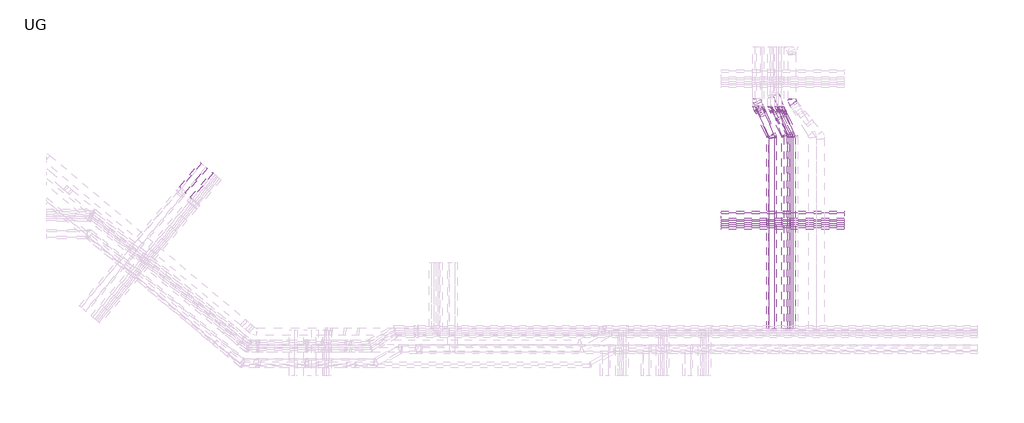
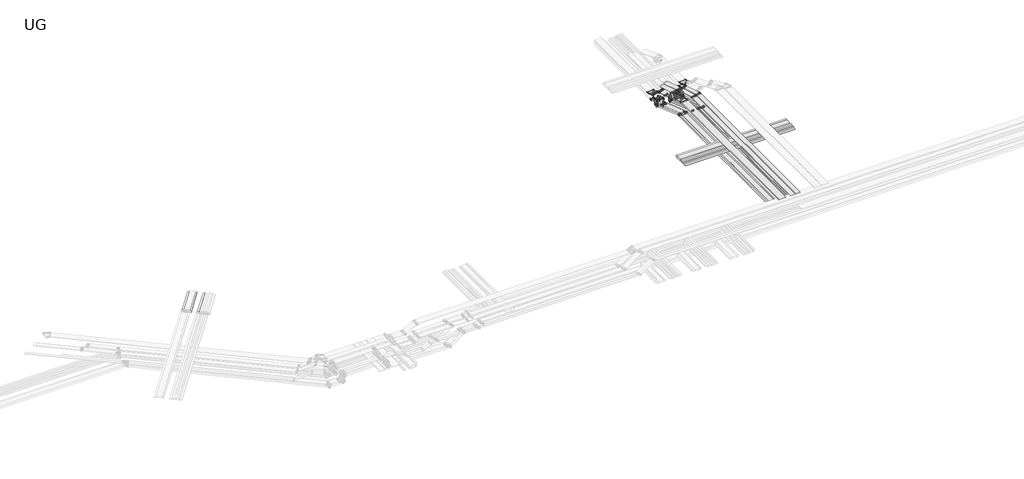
# One storey, part 10 of 14: 58 cable carrier segments, 47 cable carrier fittings.
"""IFC4 building model written with IfcOpenShell, lengths in millimetres."""

from ifc_helpers import new_model, si_unit, frame, origin, place, context, project, spatial, polyline, outline, extrude, transform, mapped, element, save
from components import cable_tray_horizontal_bend_01508106, cable_tray_horizontal_bend_a4984b26, cable_tray_horizontal_bend_2e1057a2, cable_tray_horizontal_bend_1fa5dd4e, cable_tray_horizontal_bend_ba0b7d37, cable_tray_horizontal_bend_ade5ac02, cable_tray_horizontal_bend_5f4273b5, cable_tray_horizontal_bend_cfc82d94, cable_tray_horizontal_bend_871adc4e, cable_tray_horizontal_bend_5669cde8, cable_tray_horizontal_bend_86dabf7d, cable_tray_horizontal_bend_4702312a, cable_tray_horizontal_bend_7e36f1fa, cable_tray_horizontal_bend_95bc2381, cable_tray_vertical_inside_bend_f6baaffd, cable_tray_vertical_inside_bend_1594799f, cable_tray_vertical_outside_bend_b526f006, cable_tray_vertical_outside_bend_0dbe7b70, cable_tray_vertical_outside_bend_a3d3d836, cable_tray_vertical_outside_bend_59e16c32, cable_tray_vertical_outside_bend_12a83c8c, cable_tray_vertical_outside_bend_da7dccf6

model = new_model("IFC4")

# Units and contexts
model_context = context("Model", 3, world=origin())
ifc_project = project(units=[si_unit("LENGTHUNIT", "METRE", prefix="MILLI")], contexts=[model_context])

# Site, building, storey
site = spatial("IfcSite", under=ifc_project)
building = spatial("IfcBuilding", under=site)
storey = spatial("IfcBuildingStorey", under=building, Name="UG", Elevation=7925.0)

# Cable carrier fittings
placement = place(None, origin())
cable_tray_horizontal_bend_shape = cable_tray_horizontal_bend_01508106(model_context)
element("IfcCableCarrierFitting", 1, ObjectType="Cable Tray Horizontal Bend : ELEC_ELV_TKG_N2402", at=placement, inside=storey, context=model_context, shape_type="MappedRepresentation", body=[
    mapped(cable_tray_horizontal_bend_shape, transform((175080.5007949, 42310.5055951, 12980.0), x_axis=(0.0, -1.0, 0.0), y_axis=(1.0, 0.0, 0.0), z_axis=(0.0, 0.0, 1.0))),
])
cable_tray_horizontal_bend_2_shape = cable_tray_horizontal_bend_a4984b26(model_context)
element("IfcCableCarrierFitting", 2, ObjectType="Cable Tray Horizontal Bend : ELEC_ELV_TKG_N2402", at=placement, inside=storey, context=model_context, shape_type="MappedRepresentation", body=[
    mapped(cable_tray_horizontal_bend_2_shape, transform((174825.5007949, 42310.5055951, 12980.0), x_axis=(0.0, -1.0, 0.0), y_axis=(1.0, 0.0, 0.0), z_axis=(0.0, 0.0, 1.0))),
])
element("IfcCableCarrierFitting", 3, ObjectType="Cable Tray Horizontal Bend : ELEC_ELV_TKG_N2402", at=placement, inside=storey, context=model_context, shape_type="MappedRepresentation", body=[
    mapped(cable_tray_horizontal_bend_2_shape, transform((175975.0000111, 39935.5055951, 12605.0), x_axis=(0.0, 1.0, 0.0), y_axis=(-1.0, 0.0, 0.0), z_axis=(0.0, 0.0, 1.0))),
])
cable_tray_horizontal_bend_3_shape = cable_tray_horizontal_bend_2e1057a2(model_context)
element("IfcCableCarrierFitting", 4, ObjectType="Cable Tray Horizontal Bend : ELEC_ELV_TKG_N2402", at=placement, inside=storey, context=model_context, shape_type="MappedRepresentation", body=[
    mapped(cable_tray_horizontal_bend_3_shape, transform((174650.5007949, 42310.5055951, 12955.0), x_axis=(0.0, -1.0, 0.0), y_axis=(1.0, 0.0, 0.0), z_axis=(0.0, 0.0, 1.0))),
])
element("IfcCableCarrierFitting", 5, ObjectType="Cable Tray Horizontal Bend : ELEC_ELV_TKG_N2402", at=placement, inside=storey, context=model_context, shape_type="MappedRepresentation", body=[
    mapped(cable_tray_horizontal_bend_3_shape, transform((175800.0000111, 39935.5055951, 12580.0), x_axis=(0.0, 1.0, 0.0), y_axis=(-1.0, 0.0, 0.0), z_axis=(0.0, 0.0, 1.0))),
])
element("IfcCableCarrierFitting", 6, ObjectType="Cable Tray Horizontal Bend : ELEC_ELV_TKG_N2402", at=placement, inside=storey, context=model_context, shape_type="MappedRepresentation", body=[
    mapped(cable_tray_horizontal_bend_3_shape, transform((174500.5007949, 42310.5055951, 12955.0), x_axis=(0.0, -1.0, 0.0), y_axis=(1.0, 0.0, 0.0), z_axis=(0.0, 0.0, 1.0))),
])
element("IfcCableCarrierFitting", 7, ObjectType="Cable Tray Horizontal Bend : ELEC_ELV_TKG_N2402", at=placement, inside=storey, context=model_context, shape_type="MappedRepresentation", body=[
    mapped(cable_tray_horizontal_bend_3_shape, transform((175650.0000111, 39935.5055951, 12580.0), x_axis=(0.0, 1.0, 0.0), y_axis=(-1.0, 0.0, 0.0), z_axis=(0.0, 0.0, 1.0))),
])
cable_tray_horizontal_bend_4_shape = cable_tray_horizontal_bend_1fa5dd4e(model_context)
element("IfcCableCarrierFitting", 8, ObjectType="Cable Tray Horizontal Bend : ELEC_ELV_TKG_N2402", at=placement, inside=storey, context=model_context, shape_type="MappedRepresentation", body=[
    mapped(cable_tray_horizontal_bend_4_shape, transform((174150.5007982, 42310.5055951, 12955.0), x_axis=(0.0, -1.0, 0.0), y_axis=(1.0, 0.0, 0.0), z_axis=(0.0, 0.0, 1.0))),
])
element("IfcCableCarrierFitting", 9, ObjectType="Cable Tray Horizontal Bend : ELEC_ELV_TKG_N2402", at=placement, inside=storey, context=model_context, shape_type="MappedRepresentation", body=[
    mapped(cable_tray_horizontal_bend_4_shape, transform((175500.0000111, 39935.5055951, 12580.0), x_axis=(0.0, 1.0, 0.0), y_axis=(-1.0, 0.0, 0.0), z_axis=(0.0, 0.0, 1.0))),
])
cable_tray_horizontal_bend_5_shape = cable_tray_horizontal_bend_ba0b7d37(model_context)
element("IfcCableCarrierFitting", 10, ObjectType="Cable Tray Horizontal Bend : ELEC_ELV_CT_N2402", at=placement, inside=storey, context=model_context, shape_type="MappedRepresentation", body=[
    mapped(cable_tray_horizontal_bend_5_shape, transform((173975.5007982, 42310.5055951, 12930.0), x_axis=(0.0, -1.0, 0.0), y_axis=(1.0, 0.0, 0.0), z_axis=(0.0, 0.0, 1.0))),
])
element("IfcCableCarrierFitting", 11, ObjectType="Cable Tray Horizontal Bend : ELEC_ELV_CT_N2402", at=placement, inside=storey, context=model_context, shape_type="MappedRepresentation", body=[
    mapped(cable_tray_horizontal_bend_5_shape, transform((175075.0000193, 39935.5055951, 12555.0), x_axis=(0.0, 1.0, 0.0), y_axis=(-1.0, 0.0, 0.0), z_axis=(0.0, 0.0, 1.0))),
])
cable_tray_horizontal_bend_6_shape = cable_tray_horizontal_bend_ade5ac02(model_context)
element("IfcCableCarrierFitting", 12, ObjectType="Cable Tray Horizontal Bend : ELEC_ELV_CT_N2402", at=placement, inside=storey, context=model_context, shape_type="MappedRepresentation", body=[
    mapped(cable_tray_horizontal_bend_6_shape, transform((174165.5593214, 41899.9650655, 12555.0), x_axis=(0.0, 0.0, -1.0), y_axis=(0.4201116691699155, -0.9074724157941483, 0.0), z_axis=(-0.9074724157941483, -0.4201116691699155, 0.0))),
])
cable_tray_horizontal_bend_7_shape = cable_tray_horizontal_bend_5f4273b5(model_context)
element("IfcCableCarrierFitting", 13, ObjectType="Cable Tray Horizontal Bend : ELEC_ELV_TKG_N2402", at=placement, inside=storey, context=model_context, shape_type="MappedRepresentation", body=[
    mapped(cable_tray_horizontal_bend_7_shape, transform((173500.500803, 42310.5055951, 12955.0), x_axis=(0.0, -1.0, 0.0), y_axis=(1.0, 0.0, 0.0), z_axis=(0.0, 0.0, 1.0))),
])
element("IfcCableCarrierFitting", 14, ObjectType="Cable Tray Horizontal Bend : ELEC_ELV_TKG_N2402", at=placement, inside=storey, context=model_context, shape_type="MappedRepresentation", body=[
    mapped(cable_tray_horizontal_bend_7_shape, transform((174500.0000193, 39935.5055951, 12580.0), x_axis=(0.0, 1.0, 0.0), y_axis=(-1.0, 0.0, 0.0), z_axis=(0.0, 0.0, 1.0))),
])
cable_tray_horizontal_bend_8_shape = cable_tray_horizontal_bend_cfc82d94(model_context)
element("IfcCableCarrierFitting", 15, ObjectType="Cable Tray Horizontal Bend : ELEC_ELV_TKG_N2402", at=placement, inside=storey, context=model_context, shape_type="MappedRepresentation", body=[
    mapped(cable_tray_horizontal_bend_8_shape, transform((173200.500803, 42310.5055951, 12980.0), x_axis=(0.0, -1.0, 0.0), y_axis=(1.0, 0.0, 0.0), z_axis=(0.0, 0.0, 1.0))),
])
element("IfcCableCarrierFitting", 16, ObjectType="Cable Tray Horizontal Bend : ELEC_ELV_TKG_N2402", at=placement, inside=storey, context=model_context, shape_type="MappedRepresentation", body=[
    mapped(cable_tray_horizontal_bend_8_shape, transform((174200.0000193, 39935.5055951, 12605.0), x_axis=(0.0, 1.0, 0.0), y_axis=(-1.0, 0.0, 0.0), z_axis=(0.0, 0.0, 1.0))),
])
cable_tray_horizontal_bend_9_shape = cable_tray_horizontal_bend_871adc4e(model_context)
element("IfcCableCarrierFitting", 17, ObjectType="Cable Tray Horizontal Bend : ELEC_ELV_TKG_N2402", at=placement, inside=storey, context=model_context, shape_type="MappedRepresentation", body=[
    mapped(cable_tray_horizontal_bend_9_shape, transform((172775.5007982, 42310.5055951, 12980.0), x_axis=(0.0, -1.0, 0.0), y_axis=(1.0, 0.0, 0.0), z_axis=(0.0, 0.0, 1.0))),
])
element("IfcCableCarrierFitting", 18, ObjectType="Cable Tray Horizontal Bend : ELEC_ELV_TKG_N2402", at=placement, inside=storey, context=model_context, shape_type="MappedRepresentation", body=[
    mapped(cable_tray_horizontal_bend_9_shape, transform((173875.0000193, 39935.5055951, 12605.0), x_axis=(0.0, 1.0, 0.0), y_axis=(-1.0, 0.0, 0.0), z_axis=(0.0, 0.0, 1.0))),
])
cable_tray_horizontal_bend_10_shape = cable_tray_horizontal_bend_5669cde8(model_context)
element("IfcCableCarrierFitting", 19, ObjectType="Cable Tray Horizontal Bend : ELEC_SUB_CT_N2402", at=placement, inside=storey, context=model_context, shape_type="MappedRepresentation", body=[
    mapped(cable_tray_horizontal_bend_10_shape, transform((174250.0000241, 39960.5055951, 13775.0), x_axis=(0.0, 1.0, 0.0), y_axis=(-1.0, 0.0, 0.0), z_axis=(0.0, 0.0, 1.0))),
])
element("IfcCableCarrierFitting", 20, ObjectType="Cable Tray Horizontal Bend : ELEC_SUB_CT_N2402", at=placement, inside=storey, context=model_context, shape_type="MappedRepresentation", body=[
    mapped(cable_tray_horizontal_bend_10_shape, transform((173000.5007919, 42810.5055951, 13305.0), x_axis=(0.0, -1.0, 0.0), y_axis=(1.0, 0.0, 0.0), z_axis=(0.0, 0.0, 1.0))),
])
cable_tray_horizontal_bend_11_shape = cable_tray_horizontal_bend_86dabf7d(model_context)
element("IfcCableCarrierFitting", 21, ObjectType="Cable Tray Horizontal Bend : ELEC_SUB_CT_N2402", at=placement, inside=storey, context=model_context, shape_type="MappedRepresentation", body=[
    mapped(cable_tray_horizontal_bend_11_shape, transform((175200.0000096, 40035.5055951, 13775.0), x_axis=(0.0, 1.0, 0.0), y_axis=(-1.0, 0.0, 0.0), z_axis=(0.0, 0.0, 1.0))),
])
cable_tray_horizontal_bend_12_shape = cable_tray_horizontal_bend_4702312a(model_context)
element("IfcCableCarrierFitting", 22, ObjectType="Cable Tray Horizontal Bend : ELEC_SUB_CT_N2402", at=placement, inside=storey, context=model_context, shape_type="MappedRepresentation", body=[
    mapped(cable_tray_horizontal_bend_12_shape, transform((175650.0000096, 40150.000008, 13775.0), x_axis=(0.0, 1.0, 0.0), y_axis=(-1.0, 0.0, 0.0), z_axis=(0.0, 0.0, 1.0))),
])
cable_tray_horizontal_bend_13_shape = cable_tray_horizontal_bend_7e36f1fa(model_context)
element("IfcCableCarrierFitting", 23, ObjectType="Cable Tray Horizontal Bend : ELEC_SUB_CT_N2402", at=placement, inside=storey, context=model_context, shape_type="MappedRepresentation", body=[
    mapped(cable_tray_horizontal_bend_13_shape, transform((175805.5007838, 42710.5055951, 13305.0), x_axis=(0.0, -1.0, 0.0), y_axis=(1.0, 0.0, 0.0), z_axis=(0.0, 0.0, 1.0))),
])
cable_tray_horizontal_bend_14_shape = cable_tray_horizontal_bend_95bc2381(model_context)
element("IfcCableCarrierFitting", 24, ObjectType="Cable Tray Horizontal Bend : ELEC_SUB_CT_N2402", at=placement, inside=storey, context=model_context, shape_type="MappedRepresentation", body=[
    mapped(cable_tray_horizontal_bend_14_shape, transform((175805.5007838, 42710.5055951, 12930.0), x_axis=(0.0, -1.0, 0.0), y_axis=(1.0, 0.0, 0.0), z_axis=(0.0, 0.0, 1.0))),
])
cable_tray_vertical_inside_bend_shape = cable_tray_vertical_inside_bend_f6baaffd(model_context)
element("IfcCableCarrierFitting", 25, ObjectType="Cable Tray Vertical Inside Bend : ELEC_SUB_CT_N2402", at=placement, inside=storey, context=model_context, shape_type="MappedRepresentation", body=[
    mapped(cable_tray_vertical_inside_bend_shape, transform((174569.0838286, 41812.9697131, 13305.004421), x_axis=(0.3345054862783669, -0.9423938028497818, 0.0), y_axis=(0.0, 0.0, 1.0), z_axis=(-0.9423938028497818, -0.3345054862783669, 0.0))),
])
element("IfcCableCarrierFitting", 26, ObjectType="Cable Tray Vertical Inside Bend : ELEC_SUB_CT_N2402", at=placement, inside=storey, context=model_context, shape_type="MappedRepresentation", body=[
    mapped(cable_tray_vertical_inside_bend_shape, transform((175011.7867435, 41995.412896, 13305.004421), x_axis=(0.32684370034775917, -0.9450784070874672, 0.0), y_axis=(0.0, 0.0, 1.0), z_axis=(-0.9450784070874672, -0.32684370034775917, 0.0))),
])
cable_tray_vertical_inside_bend_2_shape = cable_tray_vertical_inside_bend_1594799f(model_context)
element("IfcCableCarrierFitting", 27, ObjectType="Cable Tray Vertical Inside Bend : ELEC_SUB_CT_N2402", at=placement, inside=storey, context=model_context, shape_type="MappedRepresentation", body=[
    mapped(cable_tray_vertical_inside_bend_2_shape, transform((173169.1407444, 42425.852406, 13305.0), x_axis=(0.4015265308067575, -0.9158473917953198, 0.0), y_axis=(0.0, 0.0, 1.0), z_axis=(-0.9158473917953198, -0.4015265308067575, 0.0))),
])
cable_tray_vertical_outside_bend_shape = cable_tray_vertical_outside_bend_b526f006(model_context)
element("IfcCableCarrierFitting", 28, ObjectType="Cable Tray Vertical Outside Bend : ELEC_ELV_TKG_N2402", at=placement, inside=storey, context=model_context, shape_type="MappedRepresentation", body=[
    mapped(cable_tray_vertical_outside_bend_shape, transform((175269.8467076, 41899.635915, 12980.0), x_axis=(0.4185364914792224, -0.908199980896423, 0.0), y_axis=(0.0, 0.0, -1.0000000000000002), z_axis=(0.908199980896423, 0.4185364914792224, 0.0))),
])
element("IfcCableCarrierFitting", 29, ObjectType="Cable Tray Vertical Outside Bend : ELEC_ELV_TKG_N2402", at=placement, inside=storey, context=model_context, shape_type="MappedRepresentation", body=[
    mapped(cable_tray_vertical_outside_bend_shape, transform((175269.8467076, 41899.635915, 12605.0), x_axis=(0.0, 0.0, -1.0), y_axis=(0.4185364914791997, -0.9081999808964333, 0.0), z_axis=(-0.9081999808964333, -0.4185364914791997, 0.0))),
])
element("IfcCableCarrierFitting", 30, ObjectType="Cable Tray Vertical Outside Bend : ELEC_ELV_TKG_N2402", at=placement, inside=storey, context=model_context, shape_type="MappedRepresentation", body=[
    mapped(cable_tray_vertical_outside_bend_shape, transform((175022.5910282, 41903.2940915, 12980.0), x_axis=(0.43565479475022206, -0.9001138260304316, 0.0), y_axis=(0.0, 0.0, -1.0), z_axis=(0.9001138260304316, 0.43565479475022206, 0.0))),
])
element("IfcCableCarrierFitting", 31, ObjectType="Cable Tray Vertical Outside Bend : ELEC_ELV_TKG_N2402", at=placement, inside=storey, context=model_context, shape_type="MappedRepresentation", body=[
    mapped(cable_tray_vertical_outside_bend_shape, transform((175022.5910282, 41903.2940915, 12605.0), x_axis=(0.0, 0.0, -1.0), y_axis=(0.43565479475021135, -0.9001138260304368, 0.0), z_axis=(-0.9001138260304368, -0.43565479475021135, 0.0))),
])
element("IfcCableCarrierFitting", 32, ObjectType="Cable Tray Vertical Outside Bend : ELEC_ELV_TKG_N2402", at=placement, inside=storey, context=model_context, shape_type="MappedRepresentation", body=[
    mapped(cable_tray_vertical_outside_bend_shape, transform((172965.5593214, 41899.9650655, 12980.0), x_axis=(0.4201116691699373, -0.9074724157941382, 0.0), y_axis=(0.0, 0.0, -1.0), z_axis=(0.9074724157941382, 0.4201116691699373, 0.0))),
])
element("IfcCableCarrierFitting", 33, ObjectType="Cable Tray Vertical Outside Bend : ELEC_ELV_TKG_N2402", at=placement, inside=storey, context=model_context, shape_type="MappedRepresentation", body=[
    mapped(cable_tray_vertical_outside_bend_shape, transform((172965.5593214, 41899.9650655, 12605.0), x_axis=(0.0, 0.0, -1.0), y_axis=(0.42011166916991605, -0.907472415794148, 0.0), z_axis=(-0.907472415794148, -0.42011166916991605, 0.0))),
])
cable_tray_vertical_outside_bend_2_shape = cable_tray_vertical_outside_bend_0dbe7b70(model_context)
element("IfcCableCarrierFitting", 34, ObjectType="Cable Tray Vertical Outside Bend : ELEC_ELV_TKG_N2402", at=placement, inside=storey, context=model_context, shape_type="MappedRepresentation", body=[
    mapped(cable_tray_vertical_outside_bend_2_shape, transform((174804.0255473, 41993.305477, 12955.0), x_axis=(0.43565479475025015, -0.9001138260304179, 0.0), y_axis=(0.0, 0.0, -1.0), z_axis=(0.9001138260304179, 0.43565479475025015, 0.0))),
])
element("IfcCableCarrierFitting", 35, ObjectType="Cable Tray Vertical Outside Bend : ELEC_ELV_TKG_N2402", at=placement, inside=storey, context=model_context, shape_type="MappedRepresentation", body=[
    mapped(cable_tray_vertical_outside_bend_2_shape, transform((174804.0255473, 41993.305477, 12580.0), x_axis=(0.0, 0.0, -1.0), y_axis=(0.43565479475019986, -0.9001138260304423, 0.0), z_axis=(-0.9001138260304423, -0.43565479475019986, 0.0))),
])
element("IfcCableCarrierFitting", 36, ObjectType="Cable Tray Vertical Outside Bend : ELEC_ELV_TKG_N2402", at=placement, inside=storey, context=model_context, shape_type="MappedRepresentation", body=[
    mapped(cable_tray_vertical_outside_bend_2_shape, transform((174654.0255473, 41993.305477, 12955.0), x_axis=(0.43565479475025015, -0.9001138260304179, 0.0), y_axis=(0.0, 0.0, -1.0), z_axis=(0.9001138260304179, 0.43565479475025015, 0.0))),
])
element("IfcCableCarrierFitting", 37, ObjectType="Cable Tray Vertical Outside Bend : ELEC_ELV_TKG_N2402", at=placement, inside=storey, context=model_context, shape_type="MappedRepresentation", body=[
    mapped(cable_tray_vertical_outside_bend_2_shape, transform((174654.0255473, 41993.305477, 12580.0), x_axis=(0.0, 0.0, -1.0), y_axis=(0.43565479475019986, -0.9001138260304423, 0.0), z_axis=(-0.9001138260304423, -0.43565479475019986, 0.0))),
])
element("IfcCableCarrierFitting", 38, ObjectType="Cable Tray Vertical Outside Bend : ELEC_ELV_TKG_N2402", at=placement, inside=storey, context=model_context, shape_type="MappedRepresentation", body=[
    mapped(cable_tray_vertical_outside_bend_2_shape, transform((174324.5962892, 42004.1128332, 12955.0), x_axis=(0.4940280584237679, -0.8694459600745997, 0.0), y_axis=(0.0, 0.0, -1.0000000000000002), z_axis=(0.8694459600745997, 0.4940280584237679, 0.0))),
])
element("IfcCableCarrierFitting", 39, ObjectType="Cable Tray Vertical Outside Bend : ELEC_ELV_TKG_N2402", at=placement, inside=storey, context=model_context, shape_type="MappedRepresentation", body=[
    mapped(cable_tray_vertical_outside_bend_2_shape, transform((174324.5962892, 42004.1128332, 12580.0), x_axis=(0.0, 0.0, -1.0), y_axis=(0.49402805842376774, -0.8694459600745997, 0.0), z_axis=(-0.8694459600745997, -0.49402805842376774, 0.0))),
])
element("IfcCableCarrierFitting", 40, ObjectType="Cable Tray Vertical Outside Bend : ELEC_ELV_TKG_N2402", at=placement, inside=storey, context=model_context, shape_type="MappedRepresentation", body=[
    mapped(cable_tray_vertical_outside_bend_2_shape, transform((173637.1939156, 41985.6967937, 12955.0), x_axis=(0.38789191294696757, -0.921704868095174, 0.0), y_axis=(0.0, 0.0, -1.0), z_axis=(0.921704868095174, 0.38789191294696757, 0.0))),
])
element("IfcCableCarrierFitting", 41, ObjectType="Cable Tray Vertical Outside Bend : ELEC_ELV_TKG_N2402", at=placement, inside=storey, context=model_context, shape_type="MappedRepresentation", body=[
    mapped(cable_tray_vertical_outside_bend_2_shape, transform((173637.1939156, 41985.6967937, 12580.0), x_axis=(0.0, 0.0, -1.0), y_axis=(0.38789191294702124, -0.9217048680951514, 0.0), z_axis=(-0.9217048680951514, -0.38789191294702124, 0.0))),
])
cable_tray_vertical_outside_bend_3_shape = cable_tray_vertical_outside_bend_a3d3d836(model_context)
element("IfcCableCarrierFitting", 42, ObjectType="Cable Tray Vertical Outside Bend : ELEC_ELV_TKG_N2402", at=placement, inside=storey, context=model_context, shape_type="MappedRepresentation", body=[
    mapped(cable_tray_vertical_outside_bend_3_shape, transform((173322.2829918, 42021.1279812, 12980.0), x_axis=(0.3878919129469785, -0.9217048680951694, 0.0), y_axis=(0.0, 0.0, -1.0), z_axis=(0.9217048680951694, 0.3878919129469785, 0.0))),
])
element("IfcCableCarrierFitting", 43, ObjectType="Cable Tray Vertical Outside Bend : ELEC_ELV_TKG_N2402", at=placement, inside=storey, context=model_context, shape_type="MappedRepresentation", body=[
    mapped(cable_tray_vertical_outside_bend_3_shape, transform((173467.7424591, 41675.4886556, 12605.0), x_axis=(0.2742810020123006, -0.6517437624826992, -0.7071067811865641), y_axis=(0.2742810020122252, -0.6517437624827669, 0.707106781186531), z_axis=(-0.9217048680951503, -0.3878919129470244, 0.0))),
])
cable_tray_vertical_outside_bend_4_shape = cable_tray_vertical_outside_bend_59e16c32(model_context)
element("IfcCableCarrierFitting", 44, ObjectType="Cable Tray Vertical Outside Bend : ELEC_SUB_CT_N2402", at=placement, inside=storey, context=model_context, shape_type="MappedRepresentation", body=[
    mapped(cable_tray_vertical_outside_bend_4_shape, transform((174726.2999283, 41370.0487921, 13775.0), x_axis=(0.2365310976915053, -0.666373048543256, 0.7071067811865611), y_axis=(0.23653109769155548, -0.666373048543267, -0.7071067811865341), z_axis=(0.9423938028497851, 0.33450548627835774, 0.0))),
])
element("IfcCableCarrierFitting", 45, ObjectType="Cable Tray Vertical Outside Bend : ELEC_SUB_CT_N2402", at=placement, inside=storey, context=model_context, shape_type="MappedRepresentation", body=[
    mapped(cable_tray_vertical_outside_bend_4_shape, transform((175165.4018376, 41551.2302229, 13775.0), x_axis=(0.2311133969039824, -0.6682713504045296, 0.7071067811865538), y_axis=(0.23111339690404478, -0.6682713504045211, -0.7071067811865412), z_axis=(0.9450784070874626, 0.32684370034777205, 0.0))),
])
cable_tray_vertical_outside_bend_5_shape = cable_tray_vertical_outside_bend_12a83c8c(model_context)
element("IfcCableCarrierFitting", 46, ObjectType="Cable Tray Vertical Outside Bend : ELEC_SUB_CT_N2402", at=placement, inside=storey, context=model_context, shape_type="MappedRepresentation", body=[
    mapped(cable_tray_vertical_outside_bend_5_shape, transform((173357.8582138, 41995.4041318, 13775.0), x_axis=(0.2839221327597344, -0.6476019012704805, 0.7071067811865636), y_axis=(0.28392213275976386, -0.6476019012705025, -0.7071067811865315), z_axis=(0.9158473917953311, 0.4015265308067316, 0.0))),
])
cable_tray_vertical_outside_bend_6_shape = cable_tray_vertical_outside_bend_da7dccf6(model_context)
element("IfcCableCarrierFitting", 47, ObjectType="Cable Tray Vertical Outside Bend : ELEC_ELV_CT_N2402", at=placement, inside=storey, context=model_context, shape_type="MappedRepresentation", body=[
    mapped(cable_tray_vertical_outside_bend_6_shape, transform((174165.5593214, 41899.9650655, 12930.0), x_axis=(0.4201116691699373, -0.9074724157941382, 0.0), y_axis=(0.0, 0.0, -1.0), z_axis=(0.9074724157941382, 0.4201116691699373, 0.0))),
])

# Cable carrier segments
element("IfcCableCarrierSegment", 48, ObjectType="ELEC_ELV_TKG_N2402", at=placement, inside=storey, context=model_context, shape_type="SweptSolid", body=[
    extrude(outline(polyline([(173800.0000193, 39902.4688131), (173950.0000193, 39902.4688131), (173950.0000193, 24769.7871411), (173800.0000193, 24769.7871411), (173800.0000193, 39902.4688131)])), frame((0.0, 0.0, 12530.0), z_axis=(0.0, 0.0, 1.0), x_axis=(1.0, 0.0, 0.0)), (0.0, 0.0, 1.0), 150.0),
])
element("IfcCableCarrierSegment", 49, ObjectType="ELEC_ELV_TKG_N2402", at=placement, inside=storey, context=model_context, shape_type="SweptSolid", body=[
    extrude(outline(polyline([(174450.0000193, 39915.3208144), (174550.0000193, 39915.3208144), (174550.0000193, 24769.7871411), (174450.0000193, 24769.7871411), (174450.0000193, 39915.3208144)])), frame((0.0, 0.0, 12530.0), z_axis=(0.0, 0.0, 1.0), x_axis=(1.0, 0.0, 0.0)), (0.0, 0.0, 1.0), 100.0),
])
element("IfcCableCarrierSegment", 50, ObjectType="ELEC_ELV_CT_N2402", at=placement, inside=storey, context=model_context, shape_type="SweptSolid", body=[
    extrude(outline(polyline([(175000.0000193, 39902.4688131), (175150.0000193, 39902.4688131), (175150.0000193, 24769.7871411), (175000.0000193, 24769.7871411), (175000.0000193, 39902.4688131)])), frame((0.0, 0.0, 12530.0), z_axis=(0.0, 0.0, 1.0), x_axis=(1.0, 0.0, 0.0)), (0.0, 0.0, 1.0), 50.0),
])
element("IfcCableCarrierSegment", 51, ObjectType="ELEC_ELV_TKG_N2402", at=placement, inside=storey, context=model_context, shape_type="SweptSolid", body=[
    extrude(outline(polyline([(170198.5039276, 33909.6761538), (170198.5039276, 34059.6761538), (179932.2119857, 34059.6761538), (179932.2119857, 33909.6761538), (170198.5039276, 33909.6761538)])), frame((0.0, 0.0, 13480.0), z_axis=(0.0, 0.0, 1.0), x_axis=(1.0, 0.0, 0.0)), (0.0, 0.0, 1.0), 150.0),
])
element("IfcCableCarrierSegment", 52, ObjectType="ELEC_ELV_TKG_N2402", at=placement, inside=storey, context=model_context, shape_type="SweptSolid", body=[
    extrude(outline(polyline([(179932.2119857, 33859.6761538), (179932.2119857, 33459.6761538), (170198.5039276, 33459.6761538), (170198.5039276, 33859.6761538), (179932.2119857, 33859.6761538)])), frame((0.0, 0.0, 13480.0), z_axis=(0.0, 0.0, 1.0), x_axis=(1.0, 0.0, 0.0)), (0.0, 0.0, 1.0), 150.0),
])
element("IfcCableCarrierSegment", 53, ObjectType="ELEC_ELV_TKG_N2402", at=placement, inside=storey, context=model_context, shape_type="SweptSolid", body=[
    extrude(outline(polyline([(170198.5039276, 33309.6761538), (170198.5039276, 33409.6761538), (179932.2119857, 33409.6761538), (179932.2119857, 33309.6761538), (170198.5039276, 33309.6761538)])), frame((0.0, 0.0, 13480.0), z_axis=(0.0, 0.0, 1.0), x_axis=(1.0, 0.0, 0.0)), (0.0, 0.0, 1.0), 100.0),
])
element("IfcCableCarrierSegment", 54, ObjectType="ELEC_ELV_TKG_N2402", at=placement, inside=storey, context=model_context, shape_type="SweptSolid", body=[
    extrude(outline(polyline([(179932.2119857, 33259.6761538), (179932.2119857, 33109.6761538), (170198.5039276, 33109.6761538), (170198.5039276, 33259.6761538), (179932.2119857, 33259.6761538)])), frame((0.0, 0.0, 13480.0), z_axis=(0.0, 0.0, 1.0), x_axis=(1.0, 0.0, 0.0)), (0.0, 0.0, 1.0), 150.0),
])
element("IfcCableCarrierSegment", 55, ObjectType="ELEC_ELV_TKG_N2402", at=placement, inside=storey, context=model_context, shape_type="SweptSolid", body=[
    extrude(outline(polyline([(179932.2119857, 33059.6761538), (179932.2119857, 32959.6761538), (170198.5039276, 32959.6761538), (170198.5039276, 33059.6761538), (179932.2119857, 33059.6761538)])), frame((0.0, 0.0, 13480.0), z_axis=(0.0, 0.0, 1.0), x_axis=(1.0, 0.0, 0.0)), (0.0, 0.0, 1.0), 100.0),
])
element("IfcCableCarrierSegment", 56, ObjectType="ELEC_ELV_TKG_N2402", at=placement, inside=storey, context=model_context, shape_type="SweptSolid", body=[
    extrude(outline(polyline([(179932.2119857, 32909.6761538), (179932.2119857, 32809.6761538), (170198.5039276, 32809.6761538), (170198.5039276, 32909.6761538), (179932.2119857, 32909.6761538)])), frame((0.0, 0.0, 13480.0), z_axis=(0.0, 0.0, 1.0), x_axis=(1.0, 0.0, 0.0)), (0.0, 0.0, 1.0), 100.0),
])
element("IfcCableCarrierSegment", 57, ObjectType="ELEC_ELV_CT_N2402", at=placement, inside=storey, context=model_context, shape_type="SweptSolid", body=[
    extrude(outline(polyline([(170198.5039276, 32609.6761538), (170198.5039276, 32759.6761538), (179932.2119857, 32759.6761538), (179932.2119857, 32609.6761538), (170198.5039276, 32609.6761538)])), frame((0.0, 0.0, 13485.0), z_axis=(0.0, 0.0, 1.0), x_axis=(1.0, 0.0, 0.0)), (0.0, 0.0, 1.0), 50.0),
])
element("IfcCableCarrierSegment", 58, ObjectType="ELEC_SUB_CT_N2402", at=placement, inside=storey, context=model_context, shape_type="SweptSolid", body=[
    extrude(outline(polyline([(175450.0000096, 40082.7855041), (175850.0000096, 40082.7855041), (175850.0000096, 24750.000008), (175450.0000096, 24750.000008), (175450.0000096, 40082.7855041)])), frame((0.0, 0.0, 13750.0), z_axis=(0.0, 0.0, 1.0), x_axis=(1.0, 0.0, 0.0)), (0.0, 0.0, 1.0), 50.0),
])
element("IfcCableCarrierSegment", 59, ObjectType="ELEC_SUB_CT_N2402", at=placement, inside=storey, context=model_context, shape_type="SweptSolid", body=[
    extrude(outline(polyline([(173950.0000241, 39834.7565821), (174550.0000241, 39834.7565821), (174550.0000241, 24750.000008), (173950.0000241, 24750.000008), (173950.0000241, 39834.7565821)])), frame((0.0, 0.0, 13750.0), z_axis=(0.0, 0.0, 1.0), x_axis=(1.0, 0.0, 0.0)), (0.0, 0.0, 1.0), 50.0),
])
element("IfcCableCarrierSegment", 60, ObjectType="ELEC_SUB_CT_N2402", at=placement, inside=storey, context=model_context, shape_type="SweptSolid", body=[
    extrude(outline(polyline([(175000.0000096, 39966.6203905), (175400.0000096, 39966.6203905), (175400.0000096, 24750.000008), (175000.0000096, 24750.000008), (175000.0000096, 39966.6203905)])), frame((0.0, 0.0, 13750.0), z_axis=(0.0, 0.0, 1.0), x_axis=(1.0, 0.0, 0.0)), (0.0, 0.0, 1.0), 50.0),
])
element("IfcCableCarrierSegment", 61, ObjectType="ELEC_ELV_CT_N2402", at=placement, inside=storey, context=model_context, shape_type="SweptSolid", body=[
    extrude(outline(polyline([(0.0, -150.0000001), (0.0, 0.0), (2599.6457887, 0.0), (2599.6457886, -150.0), (0.0, -150.0000001)])), frame((130153.313158, 37044.4588626, 12825.0000005), z_axis=(-1.1850534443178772e-10, -1.4122916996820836e-10, 1.0), x_axis=(-0.6427876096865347, -0.766044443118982, -1.8436158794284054e-10)), (0.0, 0.0, 1.0), 50.0),
])
element("IfcCableCarrierSegment", 62, ObjectType="ELEC_ELV_CT_N2402", at=placement, inside=storey, context=model_context, shape_type="SweptSolid", body=[
    extrude(outline(polyline([(1e-07, -150.0), (0.0, 0.0), (2512.0934517, 0.0), (2512.0934518, -150.0), (1e-07, -150.0)])), frame((129234.2819311, 37815.6176262, 12825.0000005), z_axis=(-1.2263553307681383e-10, -1.4615133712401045e-10, 1.0), x_axis=(-0.6427876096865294, -0.7660444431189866, -1.907870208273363e-10)), (0.0, 0.0, 1.0), 50.0),
])
element("IfcCableCarrierSegment", 63, ObjectType="ELEC_ELV_TKG_N2402", at=placement, inside=storey, context=model_context, shape_type="SweptSolid", body=[
    extrude(outline(polyline([(128029.5447781, 35446.4334998), (127952.9403338, 35510.7122607), (129617.3041542, 37494.2238232), (129693.9085985, 37429.9450622), (128029.5447781, 35446.4334998)])), frame((0.0, 0.0, 12825.0), z_axis=(0.0, 0.0, 1.0), x_axis=(1.0, 0.0, 0.0)), (0.0, 0.0, 1.0), 100.0),
])
element("IfcCableCarrierSegment", 64, ObjectType="ELEC_ELV_TKG_N2402", at=placement, inside=storey, context=model_context, shape_type="SweptSolid", body=[
    extrude(outline(polyline([(174400.0000193, 24769.7871411), (174000.0000193, 24769.7871411), (174000.0000193, 39854.7664724), (174400.0000193, 39854.7664724), (174400.0000193, 24769.7871411)])), frame((0.0, 0.0, 12530.0), z_axis=(0.0, 0.0, 1.0), x_axis=(1.0, 0.0, 0.0)), (0.0, 0.0, 1.0), 150.0),
])
element("IfcCableCarrierSegment", 65, ObjectType="ELEC_ELV_TKG_N2402", at=placement, inside=storey, context=model_context, shape_type="SweptSolid", body=[
    extrude(outline(polyline([(175550.0000111, 24769.7871411), (175450.0000111, 24769.7871411), (175450.0000111, 39909.0791527), (175550.0000111, 39909.0791527), (175550.0000111, 24769.7871411)])), frame((0.0, 0.0, 12530.0), z_axis=(0.0, 0.0, 1.0), x_axis=(1.0, 0.0, 0.0)), (0.0, 0.0, 1.0), 100.0),
])
element("IfcCableCarrierSegment", 66, ObjectType="ELEC_ELV_TKG_N2402", at=placement, inside=storey, context=model_context, shape_type="SweptSolid", body=[
    extrude(outline(polyline([(175700.0000111, 24769.7871411), (175600.0000111, 24769.7871411), (175600.0000111, 39912.5777689), (175700.0000111, 39912.5777689), (175700.0000111, 24769.7871411)])), frame((0.0, 0.0, 12530.0), z_axis=(0.0, 0.0, 1.0), x_axis=(1.0, 0.0, 0.0)), (0.0, 0.0, 1.0), 100.0),
])
element("IfcCableCarrierSegment", 67, ObjectType="ELEC_ELV_TKG_N2402", at=placement, inside=storey, context=model_context, shape_type="SweptSolid", body=[
    extrude(outline(polyline([(176050.0000111, 24769.7871411), (175900.0000111, 24769.7871411), (175900.0000111, 39901.1138558), (176050.0000111, 39901.1138558), (176050.0000111, 24769.7871411)])), frame((0.0, 0.0, 12530.0), z_axis=(0.0, 0.0, 1.0), x_axis=(1.0, 0.0, 0.0)), (0.0, 0.0, 1.0), 150.0),
])
element("IfcCableCarrierSegment", 68, ObjectType="ELEC_ELV_TKG_N2402", at=placement, inside=storey, context=model_context, shape_type="SweptSolid", body=[
    extrude(outline(polyline([(175850.0000111, 24769.7871411), (175750.0000111, 24769.7871411), (175750.0000111, 39912.5777689), (175850.0000111, 39912.5777689), (175850.0000111, 24769.7871411)])), frame((0.0, 0.0, 12530.0), z_axis=(0.0, 0.0, 1.0), x_axis=(1.0, 0.0, 0.0)), (0.0, 0.0, 1.0), 100.0),
])
element("IfcCableCarrierSegment", 69, ObjectType="ELEC_ELV_TKG_N2402", at=placement, inside=storey, context=model_context, shape_type="SweptSolid", body=[
    extrude(outline(polyline([(175264.5121828, 41732.015681), (175400.7421799, 41794.7961547), (176229.3450068, 39996.7759418), (176093.1150097, 39933.9954681), (175264.5121828, 41732.015681)])), frame((0.0, 0.0, 12530.0), z_axis=(0.0, 0.0, 1.0), x_axis=(1.0, 0.0, 0.0)), (0.0, 0.0, 1.0), 150.0),
])
element("IfcCableCarrierSegment", 70, ObjectType="ELEC_ELV_TKG_N2402", at=placement, inside=storey, context=model_context, shape_type="SweptSolid", body=[
    extrude(outline(polyline([(175026.1557992, 42249.2352484), (175162.3857963, 42312.0157221), (175275.1812325, 42067.256149), (175138.9512354, 42004.4756753), (175026.1557992, 42249.2352484)])), frame((0.0, 0.0, 12905.0), z_axis=(0.0, 0.0, 1.0), x_axis=(1.0, 0.0, 0.0)), (0.0, 0.0, 1.0), 150.0),
])
element("IfcCableCarrierSegment", 71, ObjectType="ELEC_ELV_TKG_N2402", at=placement, inside=storey, context=model_context, shape_type="SweptSolid", body=[
    extrude(outline(polyline([(175170.3414722, 41936.3606767), (175306.5714694, 41999.1411504), (175369.3519431, 41862.9111533), (175233.1219459, 41800.1306796), (175170.3414722, 41936.3606767)])), frame((0.0, 0.0, 12755.0), z_axis=(0.0, 0.0, 1.0), x_axis=(1.0, 0.0, 0.0)), (0.0, 0.0, 1.0), 75.0),
])
element("IfcCableCarrierSegment", 72, ObjectType="ELEC_ELV_TKG_N2402", at=placement, inside=storey, context=model_context, shape_type="SweptSolid", body=[
    extrude(outline(polyline([(175020.4307105, 41735.602908), (175155.4477844, 41800.9511272), (176027.525622, 39999.1361847), (175892.5085481, 39933.7879654), (175020.4307105, 41735.602908)])), frame((0.0, 0.0, 12530.0), z_axis=(0.0, 0.0, 1.0), x_axis=(1.0, 0.0, 0.0)), (0.0, 0.0, 1.0), 150.0),
])
element("IfcCableCarrierSegment", 73, ObjectType="ELEC_ELV_TKG_N2402", at=placement, inside=storey, context=model_context, shape_type="SweptSolid", body=[
    extrude(outline(polyline([(174772.975184, 42246.8750055), (174907.9922579, 42312.2232247), (175024.7513459, 42070.985275), (174889.734272, 42005.6370558), (174772.975184, 42246.8750055)])), frame((0.0, 0.0, 12905.0), z_axis=(0.0, 0.0, 1.0), x_axis=(1.0, 0.0, 0.0)), (0.0, 0.0, 1.0), 150.0),
])
element("IfcCableCarrierSegment", 74, ObjectType="ELEC_ELV_TKG_N2402", at=placement, inside=storey, context=model_context, shape_type="SweptSolid", body=[
    extrude(outline(polyline([(174922.4083816, 41938.1285189), (175057.4254556, 42003.4767381), (175122.7736748, 41868.4596642), (174987.7566009, 41803.111445), (174922.4083816, 41938.1285189)])), frame((0.0, 0.0, 12755.0), z_axis=(0.0, 0.0, 1.0), x_axis=(1.0, 0.0, 0.0)), (0.0, 0.0, 1.0), 75.0),
])
element("IfcCableCarrierSegment", 75, ObjectType="ELEC_ELV_TKG_N2402", at=placement, inside=storey, context=model_context, shape_type="SweptSolid", body=[
    extrude(outline(polyline([(174802.5853355, 41881.5113547), (174892.5967181, 41925.0768342), (175835.017085, 39977.9259881), (175745.0057024, 39934.3605087), (174802.5853355, 41881.5113547)])), frame((0.0, 0.0, 12530.0), z_axis=(0.0, 0.0, 1.0), x_axis=(1.0, 0.0, 0.0)), (0.0, 0.0, 1.0), 100.0),
])
element("IfcCableCarrierSegment", 76, ObjectType="ELEC_ELV_TKG_N2402", at=placement, inside=storey, context=model_context, shape_type="SweptSolid", body=[
    extrude(outline(polyline([(174615.483721, 42268.085202), (174705.4951036, 42311.6506815), (174805.4657592, 42105.0995994), (174715.4543766, 42061.5341199), (174615.483721, 42268.085202)])), frame((0.0, 0.0, 12905.0), z_axis=(0.0, 0.0, 1.0), x_axis=(1.0, 0.0, 0.0)), (0.0, 0.0, 1.0), 100.0),
])
element("IfcCableCarrierSegment", 77, ObjectType="ELEC_ELV_TKG_N2402", at=placement, inside=storey, context=model_context, shape_type="SweptSolid", body=[
    extrude(outline(polyline([(174737.2371163, 42016.5284286), (174827.2484989, 42060.0939081), (174870.8139784, 41970.0825255), (174780.8025958, 41926.517046), (174737.2371163, 42016.5284286)])), frame((0.0, 0.0, 12680.0), z_axis=(0.0, 0.0, 1.0), x_axis=(1.0, 0.0, 0.0)), (0.0, 0.0, 1.0), 175.0),
])
element("IfcCableCarrierSegment", 78, ObjectType="ELEC_ELV_TKG_N2402", at=placement, inside=storey, context=model_context, shape_type="SweptSolid", body=[
    extrude(outline(polyline([(174652.5853355, 41881.5113547), (174742.5967181, 41925.0768342), (175685.017085, 39977.9259881), (175595.0057024, 39934.3605087), (174652.5853355, 41881.5113547)])), frame((0.0, 0.0, 12530.0), z_axis=(0.0, 0.0, 1.0), x_axis=(1.0, 0.0, 0.0)), (0.0, 0.0, 1.0), 100.0),
])
element("IfcCableCarrierSegment", 79, ObjectType="ELEC_ELV_TKG_N2402", at=placement, inside=storey, context=model_context, shape_type="SweptSolid", body=[
    extrude(outline(polyline([(174465.483721, 42268.085202), (174555.4951036, 42311.6506815), (174655.4657592, 42105.0995994), (174565.4543766, 42061.5341199), (174465.483721, 42268.085202)])), frame((0.0, 0.0, 12905.0), z_axis=(0.0, 0.0, 1.0), x_axis=(1.0, 0.0, 0.0)), (0.0, 0.0, 1.0), 100.0),
])
element("IfcCableCarrierSegment", 80, ObjectType="ELEC_ELV_TKG_N2402", at=placement, inside=storey, context=model_context, shape_type="SweptSolid", body=[
    extrude(outline(polyline([(174587.2371163, 42016.5284286), (174677.2484989, 42060.0939081), (174720.8139784, 41970.0825255), (174630.8025958, 41926.517046), (174587.2371163, 42016.5284286)])), frame((0.0, 0.0, 12680.0), z_axis=(0.0, 0.0, 1.0), x_axis=(1.0, 0.0, 0.0)), (0.0, 0.0, 1.0), 175.0),
])
element("IfcCableCarrierSegment", 81, ObjectType="ELEC_ELV_TKG_N2402", at=placement, inside=storey, context=model_context, shape_type="SweptSolid", body=[
    extrude(outline(polyline([(174330.526797, 41892.4668342), (174417.471393, 41941.8696401), (175530.4169051, 39983.1833615), (175443.4723091, 39933.7805557), (174330.526797, 41892.4668342)])), frame((0.0, 0.0, 12530.0), z_axis=(0.0, 0.0, 1.0), x_axis=(1.0, 0.0, 0.0)), (0.0, 0.0, 1.0), 100.0),
])
element("IfcCableCarrierSegment", 82, ObjectType="ELEC_ELV_TKG_N2402", at=placement, inside=storey, context=model_context, shape_type="SweptSolid", body=[
    extrude(outline(polyline([(174120.0839042, 42262.8278286), (174207.0285002, 42312.2306345), (174318.6657813, 42115.7588321), (174231.7211853, 42066.3560263), (174120.0839042, 42262.8278286)])), frame((0.0, 0.0, 12905.0), z_axis=(0.0, 0.0, 1.0), x_axis=(1.0, 0.0, 0.0)), (0.0, 0.0, 1.0), 100.0),
])
element("IfcCableCarrierSegment", 83, ObjectType="ELEC_ELV_TKG_N2402", at=placement, inside=storey, context=model_context, shape_type="SweptSolid", body=[
    extrude(outline(polyline([(174256.4225883, 42022.8837283), (174343.3671843, 42072.2865341), (174392.7699901, 41985.3419381), (174305.8253941, 41935.9391323), (174256.4225883, 42022.8837283)])), frame((0.0, 0.0, 12680.0), z_axis=(0.0, 0.0, 1.0), x_axis=(1.0, 0.0, 0.0)), (0.0, 0.0, 1.0), 175.0),
])
element("IfcCableCarrierSegment", 84, ObjectType="ELEC_ELV_CT_N2402", at=placement, inside=storey, context=model_context, shape_type="SweptSolid", body=[
    extrude(outline(polyline([(174139.5100571, 41777.7094487), (174275.6309195, 41840.7261991), (175129.1813128, 39996.9939386), (174993.0604505, 39933.9771883), (174139.5100571, 41777.7094487)])), frame((0.0, 0.0, 12530.0), z_axis=(0.0, 0.0, 1.0), x_axis=(1.0, 0.0, 0.0)), (0.0, 0.0, 1.0), 50.0),
])
element("IfcCableCarrierSegment", 85, ObjectType="ELEC_ELV_CT_N2402", at=placement, inside=storey, context=model_context, shape_type="SweptSolid", body=[
    extrude(outline(polyline([(173921.3195047, 42249.0172515), (174057.440367, 42312.0340019), (174191.6085857, 42022.2206822), (174055.4877233, 41959.2039318), (173921.3195047, 42249.0172515)])), frame((0.0, 0.0, 12905.0), z_axis=(0.0, 0.0, 1.0), x_axis=(1.0, 0.0, 0.0)), (0.0, 0.0, 1.0), 50.0),
])
element("IfcCableCarrierSegment", 86, ObjectType="ELEC_ELV_CT_N2402", at=placement, inside=storey, context=model_context, shape_type="SweptSolid", body=[
    extrude(outline(polyline([(174086.9960985, 41891.1435007), (174223.1169608, 41954.160251), (174244.1225443, 41908.7866302), (174108.0016819, 41845.7698799), (174086.9960985, 41891.1435007)])), frame((0.0, 0.0, 12655.0), z_axis=(0.0, 0.0, 1.0), x_axis=(1.0, 0.0, 0.0)), (0.0, 0.0, 1.0), 175.0),
])
element("IfcCableCarrierSegment", 87, ObjectType="ELEC_ELV_TKG_N2402", at=placement, inside=storey, context=model_context, shape_type="SweptSolid", body=[
    extrude(outline(polyline([(173629.8978635, 41874.1317112), (173722.0683503, 41912.9209025), (174538.2557495, 39973.5046013), (174446.0852627, 39934.71541), (173629.8978635, 41874.1317112)])), frame((0.0, 0.0, 12530.0), z_axis=(0.0, 0.0, 1.0), x_axis=(1.0, 0.0, 0.0)), (0.0, 0.0, 1.0), 100.0),
])
element("IfcCableCarrierSegment", 88, ObjectType="ELEC_ELV_TKG_N2402", at=placement, inside=storey, context=model_context, shape_type="SweptSolid", body=[
    extrude(outline(polyline([(173462.2450728, 42272.5065888), (173554.4155596, 42311.2957801), (173644.4899678, 42097.2618761), (173552.3194809, 42058.4726848), (173462.2450728, 42272.5065888)])), frame((0.0, 0.0, 12905.0), z_axis=(0.0, 0.0, 1.0), x_axis=(1.0, 0.0, 0.0)), (0.0, 0.0, 1.0), 100.0),
])
element("IfcCableCarrierSegment", 89, ObjectType="ELEC_ELV_TKG_N2402", at=placement, inside=storey, context=model_context, shape_type="SweptSolid", body=[
    extrude(outline(polyline([(173571.7140766, 42012.3874414), (173663.8845634, 42051.1766327), (173702.6737547, 41959.0061459), (173610.5032679, 41920.2169546), (173571.7140766, 42012.3874414)])), frame((0.0, 0.0, 12680.0), z_axis=(0.0, 0.0, 1.0), x_axis=(1.0, 0.0, 0.0)), (0.0, 0.0, 1.0), 175.0),
])
element("IfcCableCarrierSegment", 90, ObjectType="ELEC_ELV_TKG_N2402", at=placement, inside=storey, context=model_context, shape_type="SweptSolid", body=[
    extrude(outline(polyline([(173327.5857606, 41492.9200424), (173696.2677078, 41648.0768076), (174353.0229401, 40087.5016201), (173984.3409929, 39932.3448549), (173327.5857606, 41492.9200424)])), frame((0.0, 0.0, 12530.0), z_axis=(0.0, 0.0, 1.0), x_axis=(1.0, 0.0, 0.0)), (0.0, 0.0, 1.0), 150.0),
])
element("IfcCableCarrierSegment", 91, ObjectType="ELEC_ELV_TKG_N2402", at=placement, inside=storey, context=model_context, shape_type="SweptSolid", body=[
    extrude(outline(polyline([(173047.4778822, 42158.50957), (173416.1598294, 42313.6663352), (173462.4396904, 42203.6965944), (173093.7577431, 42048.5398292), (173047.4778822, 42158.50957)])), frame((0.0, 0.0, 12905.0), z_axis=(0.0, 0.0, 1.0), x_axis=(1.0, 0.0, 0.0)), (0.0, 0.0, 1.0), 150.0),
])
element("IfcCableCarrierSegment", 92, ObjectType="ELEC_ELV_TKG_N2402", at=placement, inside=storey, context=model_context, shape_type="SweptSolid", body=[
    extrude(outline(polyline([(-213.083904, -198.7592776), (170.3010123, -84.6715661), (213.0839041, -228.4409098), (-170.3010122, -342.5286212), (-213.083904, -198.7592776)])), frame((173436.4994586, 41906.7894054, 12540.7813361), z_axis=(-0.2742810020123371, 0.6517437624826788, 0.7071067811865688), x_axis=(0.9616495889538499, 0.18588988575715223, 0.2016804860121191)), (0.0, 0.0, 1.0), 302.5126266),
])
element("IfcCableCarrierSegment", 93, ObjectType="ELEC_ELV_TKG_N2402", at=placement, inside=storey, context=model_context, shape_type="SweptSolid", body=[
    extrude(outline(polyline([(172960.5156406, 41732.3358279), (173096.636503, 41795.3525783), (173929.1813128, 39996.9939386), (173793.0604505, 39933.9771883), (172960.5156406, 41732.3358279)])), frame((0.0, 0.0, 12530.0), z_axis=(0.0, 0.0, 1.0), x_axis=(1.0, 0.0, 0.0)), (0.0, 0.0, 1.0), 150.0),
])
element("IfcCableCarrierSegment", 94, ObjectType="ELEC_ELV_TKG_N2402", at=placement, inside=storey, context=model_context, shape_type="SweptSolid", body=[
    extrude(outline(polyline([(172721.3195047, 42249.0172515), (172857.440367, 42312.0340019), (172970.6030022, 42067.594303), (172834.4821398, 42004.5775526), (172721.3195047, 42249.0172515)])), frame((0.0, 0.0, 12905.0), z_axis=(0.0, 0.0, 1.0), x_axis=(1.0, 0.0, 0.0)), (0.0, 0.0, 1.0), 150.0),
])
element("IfcCableCarrierSegment", 95, ObjectType="ELEC_ELV_TKG_N2402", at=placement, inside=storey, context=model_context, shape_type="SweptSolid", body=[
    extrude(outline(polyline([(99.5688064, -142.6180732), (-36.552056, -205.6348235), (-99.5688064, -69.5139612), (36.552056, -6.4972108), (99.5688064, -142.6180732)])), frame((172965.5593214, 41793.8990483, 12755.0), z_axis=(0.0, 1.041355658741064e-12, 1.0), x_axis=(-1.0, 0.0, 0.0)), (0.0, 0.0, 1.0), 75.0),
])
element("IfcCableCarrierSegment", 96, ObjectType="ELEC_SUB_CT_N2402", at=placement, inside=storey, context=model_context, shape_type="SweptSolid", body=[
    extrude(outline(polyline([(173137.1572601, 41751.6553391), (173686.6656952, 41992.5712576), (174474.2626767, 40196.1304598), (173924.7542416, 39955.2145414), (173137.1572601, 41751.6553391)])), frame((0.0, 0.0, 13750.0), z_axis=(0.0, 0.0, 1.0), x_axis=(1.0, 0.0, 0.0)), (0.0, 0.0, 1.0), 50.0),
])
element("IfcCableCarrierSegment", 97, ObjectType="ELEC_SUB_CT_N2402", at=placement, inside=storey, context=model_context, shape_type="SweptSolid", body=[
    extrude(outline(polyline([(172776.2381393, 42574.8807303), (173325.7465744, 42815.7966488), (173389.8416981, 42669.6011987), (172840.333263, 42428.6852802), (172776.2381393, 42574.8807303)])), frame((0.0, 0.0, 13280.0), z_axis=(0.0, 0.0, 1.0), x_axis=(1.0, 0.0, 0.0)), (0.0, 0.0, 1.0), 50.0),
])
element("IfcCableCarrierSegment", 98, ObjectType="ELEC_SUB_CT_N2402", at=placement, inside=storey, context=model_context, shape_type="SweptSolid", body=[
    extrude(outline(polyline([(0.0, -600.0), (0.0, 0.0), (395.4415588, 0.0), (395.4415588, -600.0), (0.0, -600.0)])), frame((173489.2144446, 42442.9405333, 13382.5126266), z_axis=(-0.2839221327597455, 0.6476019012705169, 0.7071067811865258), x_axis=(0.28392213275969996, -0.6476019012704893, 0.7071067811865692)), (0.0, 0.0, 1.0), 50.0),
])
element("IfcCableCarrierSegment", 99, ObjectType="ELEC_SUB_CT_N2402", at=placement, inside=storey, context=model_context, shape_type="SweptSolid", body=[
    extrude(outline(polyline([(174568.9964272, 41215.3184287), (174945.9539484, 41349.1206232), (175365.4362913, 40167.3236822), (174988.4787702, 40033.5214877), (174568.9964272, 41215.3184287)])), frame((0.0, 0.0, 13750.0), z_axis=(0.0, 0.0, 1.0), x_axis=(1.0, 0.0, 0.0)), (0.0, 0.0, 1.0), 50.0),
])
element("IfcCableCarrierSegment", 100, ObjectType="ELEC_SUB_CT_N2402", at=placement, inside=storey, context=model_context, shape_type="SweptSolid", body=[
    extrude(outline(polyline([(0.0, -400.0), (0.0, 0.0), (1238.739898, 0.0), (1238.739898, -400.0), (0.0, -400.0)])), frame((174312.0220675, 43135.0807957, 13280.0), z_axis=(-1.1938421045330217e-06, 3.3633810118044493e-06, 0.9999999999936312), x_axis=(0.3345054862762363, -0.9423938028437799, 3.5689761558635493e-06)), (0.0, 0.0, 1.0), 50.0),
])
element("IfcCableCarrierSegment", 101, ObjectType="ELEC_SUB_CT_N2402", at=placement, inside=storey, context=model_context, shape_type="SweptSolid", body=[
    extrude(outline(polyline([(0.0, -400.0), (0.0, 0.0), (478.2780189, 0.0), (478.2780189, -400.0), (0.0, -400.0)])), frame((174785.520104, 41801.1068144, 13353.2277257), z_axis=(-0.23653109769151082, 0.666373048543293, 0.7071067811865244), x_axis=(0.23653109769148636, -0.6663730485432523, 0.7071067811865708)), (0.0, 0.0, 1.0), 50.0),
])
element("IfcCableCarrierSegment", 102, ObjectType="ELEC_SUB_CT_N2402", at=placement, inside=storey, context=model_context, shape_type="SweptSolid", body=[
    extrude(outline(polyline([(175006.8473522, 41397.7820167), (175384.8787151, 41528.5194968), (175817.0470539, 40278.8917243), (175439.0156911, 40148.1542442), (175006.8473522, 41397.7820167)])), frame((0.0, 0.0, 13750.0), z_axis=(0.0, 0.0, 1.0), x_axis=(1.0, 0.0, 0.0)), (0.0, 0.0, 1.0), 50.0),
])
element("IfcCableCarrierSegment", 103, ObjectType="ELEC_SUB_CT_N2402", at=placement, inside=storey, context=model_context, shape_type="SweptSolid", body=[
    extrude(outline(polyline([(1e-07, -400.0), (0.0, 0.0), (1250.9224183, -1e-07), (1250.9224183, -400.0), (1e-07, -400.0)])), frame((174761.4851457, 43331.0807851, 13280.0), z_axis=(-1.1551370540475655e-06, 3.340113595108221e-06, 0.9999999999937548), x_axis=(0.3268437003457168, -0.9450784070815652, 3.534218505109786e-06)), (0.0, 0.0, 1.0), 50.0),
])
element("IfcCableCarrierSegment", 104, ObjectType="ELEC_SUB_CT_N2402", at=placement, inside=storey, context=model_context, shape_type="SweptSolid", body=[
    extrude(outline(polyline([(0.0, -400.0), (0.0, 0.0), (478.278019, 0.0), (478.2780189, -400.0), (0.0, -400.0)])), frame((175228.1195781, 41981.7932645, 13353.2277257), z_axis=(-0.23111339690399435, 0.6682713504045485, 0.707106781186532), x_axis=(0.23111339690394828, -0.6682713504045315, 0.7071067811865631)), (0.0, 0.0, 1.0), 50.0),
])
element("IfcCableCarrierSegment", 105, ObjectType="ELEC_SUB_CT_N2402", at=placement, inside=storey, context=model_context, shape_type="SweptSolid", body=[
    extrude(outline(polyline([(175632.3578679, 42415.0117727), (176147.7864785, 42722.1491156), (176229.4996012, 42585.0206216), (175714.0709906, 42277.8832787), (175632.3578679, 42415.0117727)])), frame((0.0, 0.0, 13280.0), z_axis=(0.0, 0.0, 1.0), x_axis=(1.0, 0.0, 0.0)), (0.0, 0.0, 1.0), 50.0),
])

save(model, "model.ifc")
